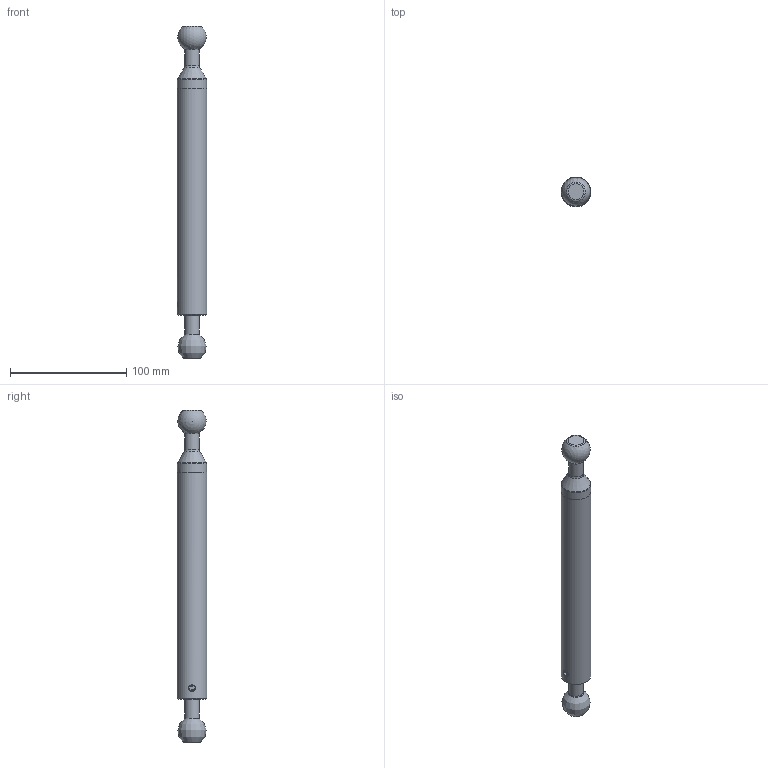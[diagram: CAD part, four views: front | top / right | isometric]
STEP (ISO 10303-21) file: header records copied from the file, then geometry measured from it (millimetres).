
FILE_DESCRIPTION(/* description */ (''),/* implementation_level */ '2;1');
FILE_NAME(/* name */ 'C:\Users\owner\Desktop\PL SERIES\PL_POSTS\PL-TPOST6IN-BL.stp',/* time_stamp */ '2017-09-28T09:18:35-04:00',/* author */ ('owner'),/* organization */ (''),/* preprocessor_version */ 'ST-DEVELOPER v16.5',/* originating_system */ 'Autodesk Inventor 2017',/* authorisation */ '');
FILE_SCHEMA (('CONFIG_CONTROL_DESIGN'));
Length unit declared in the file: inch
Products named in the file (6): PL-TPOST6IN-BL; 60058; 60007; 60008; 60056; 60046
Assembly tree (5 placements, depth 2):
  PL-TPOST6IN-BL
    60058
    60007
    60008
    60056
    60046
Bounding box: 25.4 x 25.4 x 285.41 mm (x, y, z)
Volume: 122683.7 mm3; surface area: 40377.7 mm2
Topology: 5 solids, 5 shells, 886 faces, 2361 edges, 1568 vertices
Faces by surface type: bspline 401, plane 370, cylinder 95, cone 10, torus 9, sphere 1
Full cylindrical faces by diameter (mm): 4 x1, 4.928 x1, 6 x1, 7.912 x1, 7.95 x1, 8.026 x1, 12.611 x1, 12.7 x2, 12.769 x1, 13.785 x1, 13.83 x1, 13.886 x1, 25.146 x1, 25.4 x1
Entity records: 37593 total; most frequent: CARTESIAN_POINT 17821, ORIENTED_EDGE 4638, DIRECTION 2913, EDGE_CURVE 2319, VERTEX_POINT 1561, LINE 1129, VECTOR 1129, EDGE_LOOP 1008
